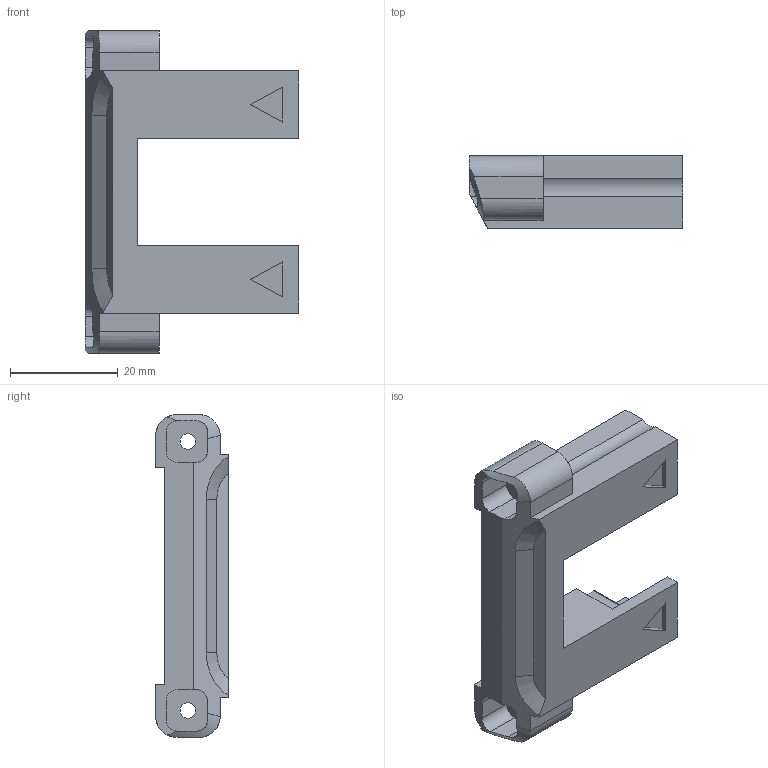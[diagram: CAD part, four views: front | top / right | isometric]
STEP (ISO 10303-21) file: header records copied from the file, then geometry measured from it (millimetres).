
FILE_DESCRIPTION(/* description */ (''),/* implementation_level */ '2;1');
FILE_NAME(/* name */ 'WOMEN_bridge A.stp',/* time_stamp */ '2025-11-21T05:02:05+09:00',/* author */ (''),/* organization */ (''),/* preprocessor_version */ 'ST-DEVELOPER v11',/* originating_system */ 'SIEMENS PLM Software NX 7.5',/* authorisation */ '');
FILE_SCHEMA (('CONFIG_CONTROL_DESIGN'));
Length unit declared in the file: millimetre
Products named in the file (1): gyunCC550rmk
Bounding box: 39.75 x 13.5 x 60 mm (x, y, z)
Volume: 12659.9 mm3; surface area: 6436.1 mm2
Topology: 1 solids, 1 shells, 77 faces, 214 edges, 143 vertices
Faces by surface type: plane 51, cylinder 24, cone 2
Full cylindrical faces by diameter (mm): 2.9 x2, 3 x2, 6 x2
Entity records: 2561 total; most frequent: CARTESIAN_POINT 492, ORIENTED_EDGE 410, DIRECTION 409, EDGE_CURVE 205, VERTEX_POINT 140, LINE 139, VECTOR 139, AXIS2_PLACEMENT_3D 135
